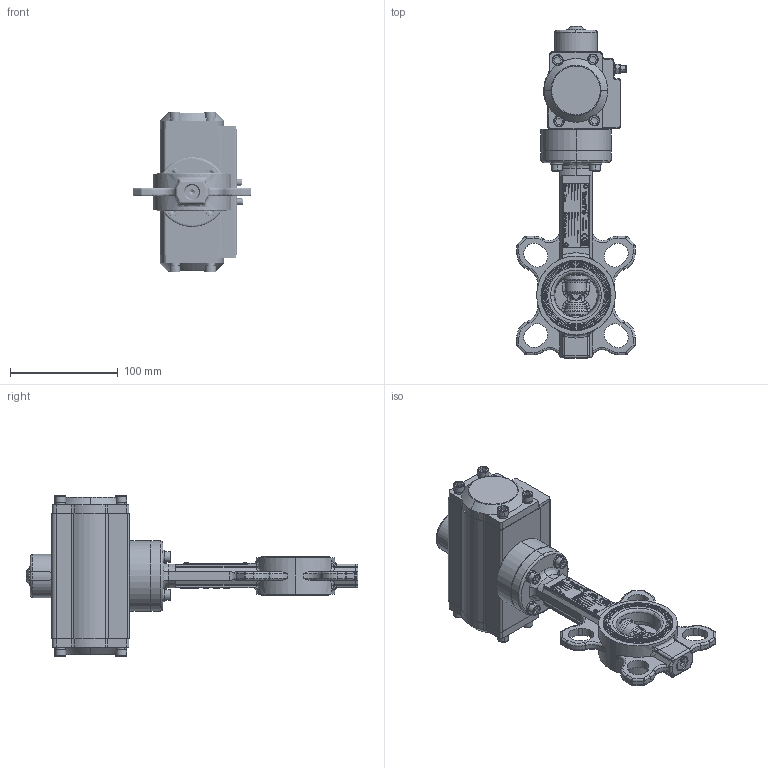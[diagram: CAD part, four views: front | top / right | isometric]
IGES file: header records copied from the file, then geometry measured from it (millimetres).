
Start section: SolidWorks IGES file using NURBS representation for surfaces
Global section: file name: H:\BE BIBLIOTHEQUE 3D\VPN-03 PNEUMATIC ACTUATOR (DN40 à 300)\VPN-03 DN40\VPN-03 DN40.IGS; native system: SolidWorks 2011; preprocessor: SolidWorks 2011; author: a.cartier; date: 140620.090558; units: millimetre
Bounding box: 109.78 x 307.82 x 148.56 mm (x, y, z)
Volume: 679842.7 mm3; surface area: 239907.9 mm2
Topology: 69 solids, 69 shells, 4766 faces, 11808 edges, 7602 vertices
Faces by surface type: bspline 4766
